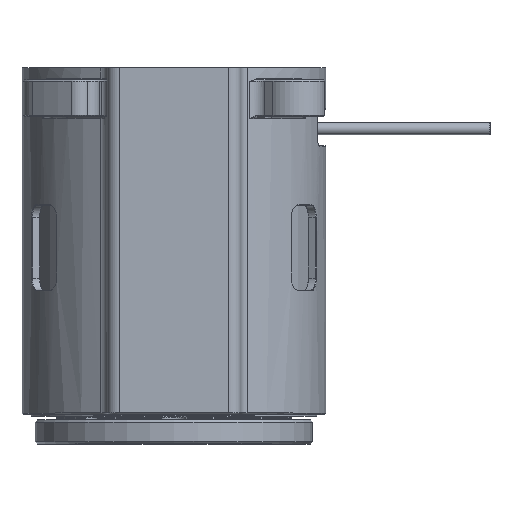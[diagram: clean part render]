
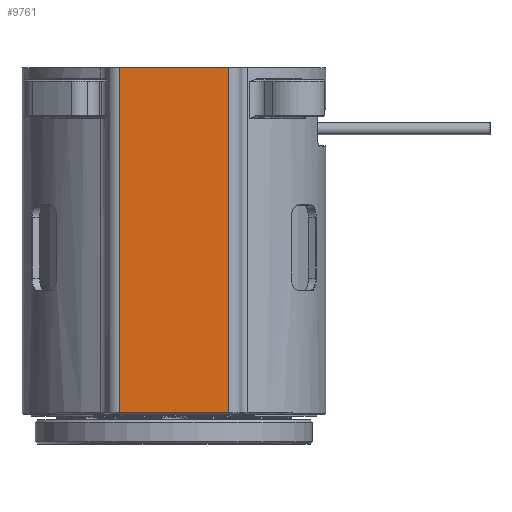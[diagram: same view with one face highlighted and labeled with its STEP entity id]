
A CAD part, top view. The second image highlights one B-rep face of the part: STEP entity #9761.
In plain terms, the highlighted planar face has unit normal (0, 0, 1).
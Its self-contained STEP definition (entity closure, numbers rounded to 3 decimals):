
#105=DIRECTION('',(1.,0.,0.));
#106=VECTOR('',#105,9.);
#107=CARTESIAN_POINT('',(-4.5,0.1,16.));
#108=LINE('',#107,#106);
#679=DIRECTION('',(-1.,0.,0.));
#680=VECTOR('',#679,9.);
#681=CARTESIAN_POINT('',(4.5,28.5,16.));
#682=LINE('',#681,#680);
#753=DIRECTION('',(0.,1.,0.));
#754=VECTOR('',#753,28.4);
#755=CARTESIAN_POINT('',(4.5,0.1,16.));
#756=LINE('',#755,#754);
#757=DIRECTION('',(0.,1.,0.));
#758=VECTOR('',#757,28.4);
#759=CARTESIAN_POINT('',(-4.5,0.1,16.));
#760=LINE('',#759,#758);
#8806=CARTESIAN_POINT('',(4.5,0.1,16.));
#8807=VERTEX_POINT('',#8806);
#8808=CARTESIAN_POINT('',(-4.5,0.1,
16.));
#8809=VERTEX_POINT('',#8808);
#8810=CARTESIAN_POINT('',(-4.5,28.5,16.));
#8811=VERTEX_POINT('',#8810);
#8813=CARTESIAN_POINT('',(4.5,28.5,16.));
#8815=VERTEX_POINT('',#8813);
#9749=CARTESIAN_POINT('',(-5.5,0.,16.));
#9750=DIRECTION('',(0.,0.,1.));
#9751=DIRECTION('',(1.,0.,0.));
#9752=AXIS2_PLACEMENT_3D('',#9749,#9750,#9751);
#9753=PLANE('',#9752);
#9754=ORIENTED_EDGE('',*,*,#9311,.F.);
#9756=ORIENTED_EDGE('',*,*,#9755,.T.);
#9757=ORIENTED_EDGE('',*,*,#9703,.F.);
#9758=ORIENTED_EDGE('',*,*,#9741,.F.);
#9759=EDGE_LOOP('',(#9754,#9756,#9757,#9758));
#9760=FACE_OUTER_BOUND('',#9759,.F.);
#9761=ADVANCED_FACE('',(#9760),#9753,.T.);
#9311=EDGE_CURVE('',#8809,#8807,#108,.T.);
#9703=EDGE_CURVE('',#8815,#8811,#682,.T.);
#9741=EDGE_CURVE('',#8807,#8815,#756,.T.);
#9755=EDGE_CURVE('',#8809,#8811,#760,.T.);
